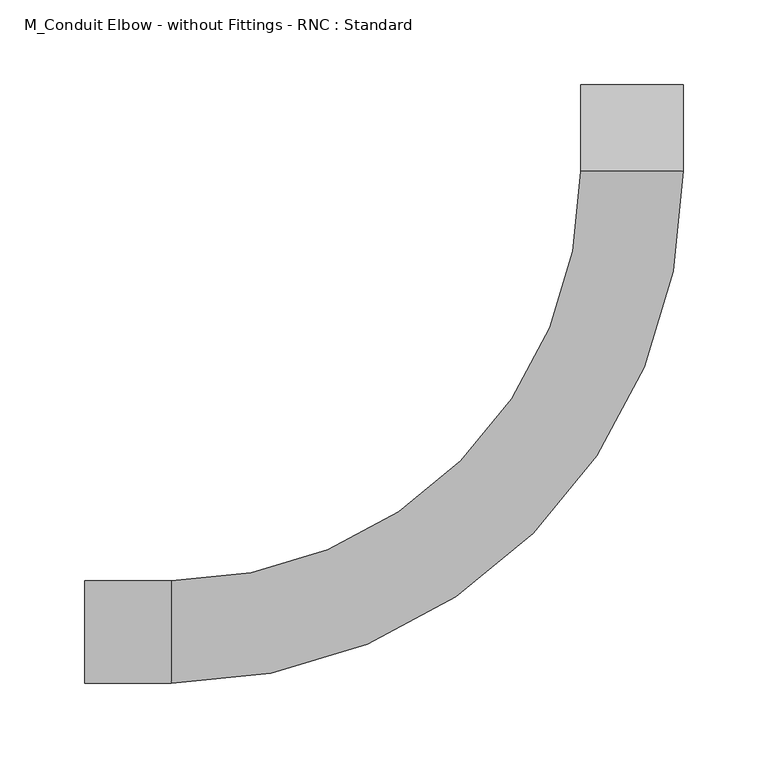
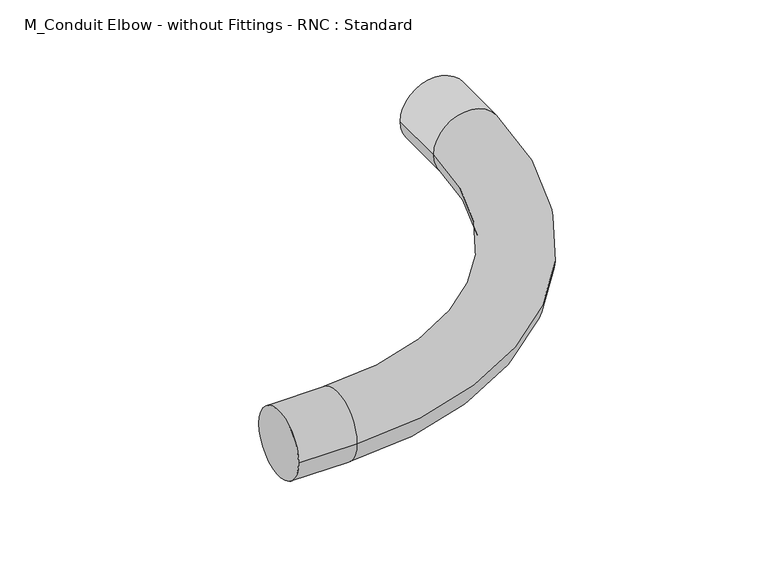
"""IFC4 building model written with IfcOpenShell, lengths in millimetres: cable carrier fitting geometry, M_Conduit Elbow - without Fittings - RNC : Standard."""

from ifc_helpers import new_model, si_unit, point, frame, origin, place, context, project, spatial, circle_curve, ellipse_curve, trimmed, source, transform, mapped, element, save
from ifc_brep_helpers import plane_surface, cylinder_surface, revolved_surface, advanced_brep


def m_conduit_elbow_without_fittings_rnc_standard_89ecd00f(model_context):
    return source(origin(), model_context, "Body", "AdvancedBrep", [
        advanced_brep(
        [(-322.26, -30.1625, 0.0), (-322.26, 30.1625, 0.0), (-271.46, -30.1625, 0.0), (-271.46, 30.1625, 0.0), (-30.1625, 271.46, 0.0), (30.1625, 271.46, 0.0), (30.1625, 322.26, 0.0), (-30.1625, 322.26, 0.0)],
        [
            (0, 1, circle_curve(frame((-322.26, 0.0, 0.0), z_axis=(-1.0, 0.0, 0.0), x_axis=(0.0, 1.0, 0.0)), 30.1625)),
            (1, 0, circle_curve(frame((-322.26, 0.0, 0.0), z_axis=(-1.0, 0.0, 0.0), x_axis=(0.0, 1.0, 0.0)), 30.1625)),
            (0, 2),
            (2, 3, circle_curve(frame((-271.46, 0.0, 0.0), z_axis=(-1.0, 0.0, 0.0), x_axis=(0.0, 1.0, 0.0)), 30.1625)),
            (3, 1),
            (3, 2, circle_curve(frame((-271.46, 0.0, 0.0), z_axis=(-1.0, 0.0, 0.0), x_axis=(0.0, 1.0, 0.0)), 30.1625)),
            (4, 3, circle_curve(frame((-271.46, 271.46, 0.0), z_axis=(0.0, 0.0, -1.0), x_axis=(0.0, -1.0, 0.0)), 241.2975)),
            (2, 5, circle_curve(frame((-271.46, 271.46, 0.0), z_axis=(0.0, 0.0, 1.0), x_axis=(0.0, -1.0, 0.0)), 301.6225)),
            (5, 4, circle_curve(frame((0.0, 271.46, 0.0), z_axis=(0.0, -1.0, 0.0), x_axis=(-1.0, 0.0, 0.0)), 30.1625)),
            (4, 5, circle_curve(frame((0.0, 271.46, 0.0), z_axis=(0.0, -1.0, 0.0), x_axis=(-1.0, 0.0, 0.0)), 30.1625)),
            (6, 7, circle_curve(frame((0.0, 322.26, 0.0), z_axis=(0.0, 1.0, 0.0), x_axis=(-1.0, 0.0, 0.0)), 30.1625)),
            (7, 6, circle_curve(frame((0.0, 322.26, 0.0), z_axis=(0.0, 1.0, 0.0), x_axis=(-1.0, 0.0, 0.0)), 30.1625)),
            (5, 6),
            (7, 4),
        ],
        [
            plane_surface(frame((-322.26, 0.0, 0.0), z_axis=(-1.0, 0.0, 0.0), x_axis=(0.0, 0.0, 1.0))),
            cylinder_surface(frame((-322.26, 0.0, 0.0), z_axis=(-1.0, 0.0, 0.0), x_axis=(0.0, 1.0, 0.0)), 30.1625),
            revolved_surface(trimmed(ellipse_curve(frame((-271.46, 0.0, 0.0), z_axis=(-1.0, 0.0, 0.0), x_axis=(0.0, 1.0, 0.0)), 30.1625, 30.1625), [point((-271.46, -30.1625, 0.0))], [point((-271.46, 30.1625, 0.0))], True, "CARTESIAN"), (-271.46, 271.46, 0.0), (0.0, 0.0, 1.0)),
            revolved_surface(trimmed(ellipse_curve(frame((-271.46, 0.0, 0.0), z_axis=(-1.0, 0.0, 0.0), x_axis=(0.0, 1.0, 0.0)), 30.1625, 30.1625), [point((-271.46, 30.1625, 0.0))], [point((-271.46, -30.1625, 0.0))], True, "CARTESIAN"), (-271.46, 271.46, 0.0), (0.0, 0.0, 1.0)),
            plane_surface(frame((0.0, 322.26, 0.0), z_axis=(0.0, 1.0, 0.0), x_axis=(0.0, 0.0, 1.0))),
            cylinder_surface(frame((0.0, 271.46, 0.0), z_axis=(0.0, -1.0, 0.0), x_axis=(-1.0, 0.0, 0.0)), 30.1625),
        ],
        [
            (0, [[1, 2]]),
            (1, [[-1, 3, 4, 5]]),
            (1, [[-2, -5, 6, -3]]),
            (2, [[7, -4, 8, 9]]),
            (3, [[-8, -6, -7, 10]]),
            (4, [[11, 12]]),
            (5, [[-9, 13, -12, 14]]),
            (5, [[-10, -14, -11, -13]]),
        ],
    ),
    ])


if __name__ == "__main__":
    model = new_model("IFC4")
    model_context = context("Model", 3, world=origin())
    ifc_project = project(units=[si_unit("LENGTHUNIT", "METRE", prefix="MILLI")], contexts=[model_context])
    site = spatial("IfcSite", under=ifc_project)
    building = spatial("IfcBuilding", under=site)
    placement = place(None, origin())
    m_conduit_elbow_without_fittings_rnc_standard_shape = m_conduit_elbow_without_fittings_rnc_standard_89ecd00f(model_context)
    element("IfcCableCarrierFitting", 1, ObjectType="M_Conduit Elbow - without Fittings - RNC : Standard", at=placement, inside=building, context=model_context, shape_type="MappedRepresentation", body=[
        mapped(m_conduit_elbow_without_fittings_rnc_standard_shape, transform((0.0, 0.0, 0.0), x_axis=(1.0, 0.0, 0.0), y_axis=(0.0, 1.0, 0.0), z_axis=(0.0, 0.0, 1.0))),
    ])
    save(model, "model.ifc")
